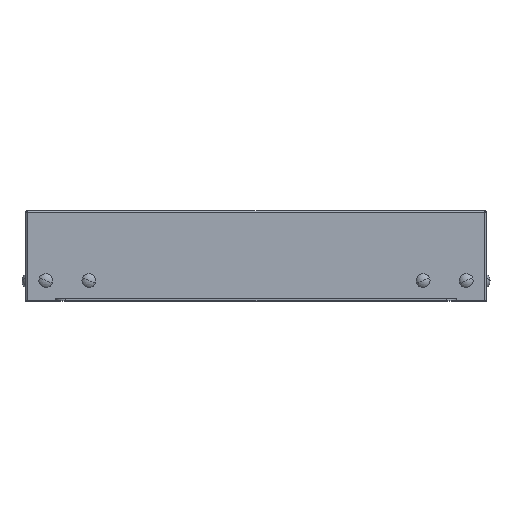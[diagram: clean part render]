
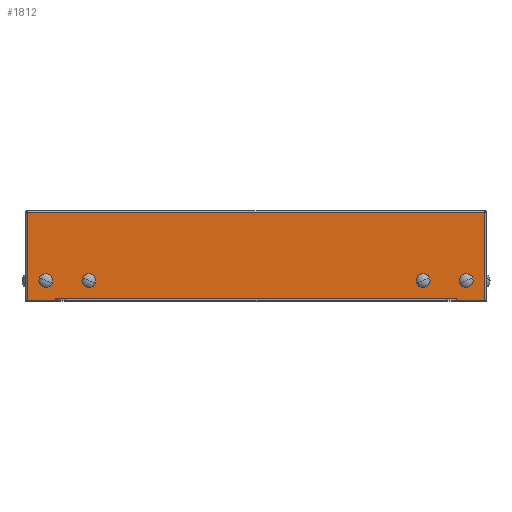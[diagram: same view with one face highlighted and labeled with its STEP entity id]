
A CAD part, top view. The second image highlights one B-rep face of the part: STEP entity #1812.
In plain terms, the highlighted planar face has unit normal (0, 0, 1).
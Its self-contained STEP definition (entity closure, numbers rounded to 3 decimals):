
#12 = DIRECTION ( 'NONE',  ( 1., 0., 0. ) ) ;
#17 = CARTESIAN_POINT ( 'NONE',  ( 100., 0., 115. ) ) ;
#28 = CIRCLE ( 'NONE', #2562, 3.45 ) ;
#57 = CARTESIAN_POINT ( 'NONE',  ( -106.317, 6.811, 115. ) ) ;
#106 = EDGE_CURVE ( 'NONE', #4280, #912, #3704, .T. ) ;
#136 = ORIENTED_EDGE ( 'NONE', *, *, #1688, .T. ) ;
#160 = AXIS2_PLACEMENT_3D ( 'NONE', #3010, #2398, #292 ) ;
#190 = ORIENTED_EDGE ( 'NONE', *, *, #1694, .F. ) ;
#222 = LINE ( 'NONE', #3990, #1916 ) ;
#292 = DIRECTION ( 'NONE',  ( 1., 0., 0. ) ) ;
#299 = DIRECTION ( 'NONE',  ( 0., 0., -1. ) ) ;
#314 = CARTESIAN_POINT ( 'NONE',  ( 114., 370.269, 115. ) ) ;
#320 = ORIENTED_EDGE ( 'NONE', *, *, #1402, .F. ) ;
#321 = AXIS2_PLACEMENT_3D ( 'NONE', #3482, #1811, #2160 ) ;
#328 = CARTESIAN_POINT ( 'NONE',  ( 105., 10., 115. ) ) ;
#363 = EDGE_CURVE ( 'NONE', #2857, #509, #1292, .T. ) ;
#393 = CIRCLE ( 'NONE', #3152, 3.45 ) ;
#474 = EDGE_CURVE ( 'NONE', #912, #4280, #3816, .T. ) ;
#509 = VERTEX_POINT ( 'NONE', #1705 ) ;
#604 = VERTEX_POINT ( 'NONE', #3496 ) ;
#636 = ORIENTED_EDGE ( 'NONE', *, *, #1311, .T. ) ;
#690 = CARTESIAN_POINT ( 'NONE',  ( 115., 0., 115. ) ) ;
#742 = CARTESIAN_POINT ( 'NONE',  ( -82.183, 13.189, 115. ) ) ;
#757 = CARTESIAN_POINT ( 'NONE',  ( 84.817, 6.811, 115. ) ) ;
#775 = PLANE ( 'NONE',  #321 ) ;
#806 = CARTESIAN_POINT ( 'NONE',  ( 82.183, 13.189, 115. ) ) ;
#852 = CARTESIAN_POINT ( 'NONE',  ( 83.5, 10., 115. ) ) ;
#912 = VERTEX_POINT ( 'NONE', #57 ) ;
#918 = CARTESIAN_POINT ( 'NONE',  ( -84.817, 6.811, 115. ) ) ;
#937 = CARTESIAN_POINT ( 'NONE',  ( 114., 44., 115. ) ) ;
#969 = ORIENTED_EDGE ( 'NONE', *, *, #2744, .F. ) ;
#985 = EDGE_CURVE ( 'NONE', #2897, #2715, #1524, .T. ) ;
#1019 = AXIS2_PLACEMENT_3D ( 'NONE', #1867, #2389, #2348 ) ;
#1027 = DIRECTION ( 'NONE',  ( 1., 0., 0. ) ) ;
#1114 = AXIS2_PLACEMENT_3D ( 'NONE', #328, #4081, #12 ) ;
#1184 = DIRECTION ( 'NONE',  ( 0., 1., 0. ) ) ;
#1212 = DIRECTION ( 'NONE',  ( 0., 0., 1. ) ) ;
#1220 = CARTESIAN_POINT ( 'NONE',  ( 100., 0., 115. ) ) ;
#1292 = LINE ( 'NONE', #2970, #1842 ) ;
#1308 = LINE ( 'NONE', #314, #2846 ) ;
#1311 = EDGE_CURVE ( 'NONE', #2251, #2857, #1308, .T. ) ;
#1395 = DIRECTION ( 'NONE',  ( 0., 1., 0. ) ) ;
#1402 = EDGE_CURVE ( 'NONE', #1451, #2031, #28, .T. ) ;
#1429 = DIRECTION ( 'NONE',  ( -1., 0., 0. ) ) ;
#1451 = VERTEX_POINT ( 'NONE', #742 ) ;
#1500 = CARTESIAN_POINT ( 'NONE',  ( -100., 0., 115. ) ) ;
#1519 = AXIS2_PLACEMENT_3D ( 'NONE', #2052, #3461, #4151 ) ;
#1524 = LINE ( 'NONE', #1500, #3739 ) ;
#1608 = EDGE_CURVE ( 'NONE', #2715, #4277, #222, .T. ) ;
#1688 = EDGE_CURVE ( 'NONE', #4427, #2247, #2354, .T. ) ;
#1694 = EDGE_CURVE ( 'NONE', #2995, #2712, #393, .T. ) ;
#1705 = CARTESIAN_POINT ( 'NONE',  ( -114., 44., 115. ) ) ;
#1738 = LINE ( 'NONE', #17, #2379 ) ;
#1759 = CARTESIAN_POINT ( 'NONE',  ( 114., 0., 115. ) ) ;
#1791 = FACE_BOUND ( 'NONE', #2497, .T. ) ;
#1811 = DIRECTION ( 'NONE',  ( 0., 0., 1. ) ) ;
#1812 = ADVANCED_FACE ( 'NONE', ( #2094, #1791, #2455, #3888, #3179 ), #775, .T. ) ;
#1815 = EDGE_LOOP ( 'NONE', ( #136, #3345 ) ) ;
#1842 = VECTOR ( 'NONE', #3652, 1000. ) ;
#1867 = CARTESIAN_POINT ( 'NONE',  ( -83.5, 10., 115. ) ) ;
#1908 = EDGE_LOOP ( 'NONE', ( #190, #969 ) ) ;
#1916 = VECTOR ( 'NONE', #4034, 1000. ) ;
#1935 = EDGE_CURVE ( 'NONE', #509, #604, #2953, .T. ) ;
#1960 = ORIENTED_EDGE ( 'NONE', *, *, #474, .T. ) ;
#2031 = VERTEX_POINT ( 'NONE', #918 ) ;
#2045 = ORIENTED_EDGE ( 'NONE', *, *, #4157, .F. ) ;
#2052 = CARTESIAN_POINT ( 'NONE',  ( -105., 10., 115. ) ) ;
#2094 = FACE_BOUND ( 'NONE', #3125, .T. ) ;
#2160 = DIRECTION ( 'NONE',  ( 1., 0., 0. ) ) ;
#2189 = DIRECTION ( 'NONE',  ( 0.382, -0.924, 0. ) ) ;
#2247 = VERTEX_POINT ( 'NONE', #3848 ) ;
#2251 = VERTEX_POINT ( 'NONE', #1759 ) ;
#2272 = ORIENTED_EDGE ( 'NONE', *, *, #363, .T. ) ;
#2287 = VECTOR ( 'NONE', #3194, 1000. ) ;
#2292 = ORIENTED_EDGE ( 'NONE', *, *, #3832, .F. ) ;
#2318 = CARTESIAN_POINT ( 'NONE',  ( -100., 0., 115. ) ) ;
#2348 = DIRECTION ( 'NONE',  ( 0.382, 0.924, 0. ) ) ;
#2354 = CIRCLE ( 'NONE', #1114, 3.45 ) ;
#2379 = VECTOR ( 'NONE', #1395, 1000. ) ;
#2389 = DIRECTION ( 'NONE',  ( 0., 0., 1. ) ) ;
#2398 = DIRECTION ( 'NONE',  ( 0., 0., -1. ) ) ;
#2429 = CARTESIAN_POINT ( 'NONE',  ( 115., 0., 115. ) ) ;
#2440 = EDGE_LOOP ( 'NONE', ( #2668, #3795, #2292, #4179, #636, #2272, #3480, #2045 ) ) ;
#2455 = FACE_BOUND ( 'NONE', #1815, .T. ) ;
#2497 = EDGE_LOOP ( 'NONE', ( #3367, #1960 ) ) ;
#2505 = AXIS2_PLACEMENT_3D ( 'NONE', #3775, #299, #1027 ) ;
#2556 = AXIS2_PLACEMENT_3D ( 'NONE', #852, #1212, #2189 ) ;
#2562 = AXIS2_PLACEMENT_3D ( 'NONE', #3745, #3770, #4491 ) ;
#2582 = EDGE_CURVE ( 'NONE', #2247, #4427, #2707, .T. ) ;
#2619 = CARTESIAN_POINT ( 'NONE',  ( -114., 370.269, 115. ) ) ;
#2668 = ORIENTED_EDGE ( 'NONE', *, *, #985, .T. ) ;
#2707 = CIRCLE ( 'NONE', #160, 3.45 ) ;
#2712 = VERTEX_POINT ( 'NONE', #806 ) ;
#2715 = VERTEX_POINT ( 'NONE', #3972 ) ;
#2744 = EDGE_CURVE ( 'NONE', #2712, #2995, #4009, .T. ) ;
#2776 = DIRECTION ( 'NONE',  ( 0., 0., 1. ) ) ;
#2846 = VECTOR ( 'NONE', #4510, 1000. ) ;
#2857 = VERTEX_POINT ( 'NONE', #937 ) ;
#2897 = VERTEX_POINT ( 'NONE', #2318 ) ;
#2938 = VECTOR ( 'NONE', #1429, 1000. ) ;
#2953 = LINE ( 'NONE', #2619, #3580 ) ;
#2963 = CIRCLE ( 'NONE', #1019, 3.45 ) ;
#2970 = CARTESIAN_POINT ( 'NONE',  ( -115., 44., 115. ) ) ;
#2995 = VERTEX_POINT ( 'NONE', #757 ) ;
#3010 = CARTESIAN_POINT ( 'NONE',  ( 105., 10., 115. ) ) ;
#3102 = EDGE_CURVE ( 'NONE', #2031, #1451, #2963, .T. ) ;
#3104 = DIRECTION ( 'NONE',  ( 0.382, -0.924, 0. ) ) ;
#3125 = EDGE_LOOP ( 'NONE', ( #320, #3977 ) ) ;
#3152 = AXIS2_PLACEMENT_3D ( 'NONE', #3803, #2776, #3104 ) ;
#3179 = FACE_OUTER_BOUND ( 'NONE', #2440, .T. ) ;
#3194 = DIRECTION ( 'NONE',  ( -1., 0., 0. ) ) ;
#3345 = ORIENTED_EDGE ( 'NONE', *, *, #2582, .T. ) ;
#3367 = ORIENTED_EDGE ( 'NONE', *, *, #106, .T. ) ;
#3461 = DIRECTION ( 'NONE',  ( 0., 0., -1. ) ) ;
#3478 = LINE ( 'NONE', #2429, #2938 ) ;
#3480 = ORIENTED_EDGE ( 'NONE', *, *, #1935, .T. ) ;
#3482 = CARTESIAN_POINT ( 'NONE',  ( 115., 370.269, 115. ) ) ;
#3496 = CARTESIAN_POINT ( 'NONE',  ( -114., 0., 115. ) ) ;
#3580 = VECTOR ( 'NONE', #4358, 1000. ) ;
#3652 = DIRECTION ( 'NONE',  ( -1., 0., 0. ) ) ;
#3704 = CIRCLE ( 'NONE', #1519, 3.45 ) ;
#3739 = VECTOR ( 'NONE', #1184, 1000. ) ;
#3745 = CARTESIAN_POINT ( 'NONE',  ( -83.5, 10., 115. ) ) ;
#3770 = DIRECTION ( 'NONE',  ( 0., 0., 1. ) ) ;
#3773 = CARTESIAN_POINT ( 'NONE',  ( 106.317, 6.811, 115. ) ) ;
#3775 = CARTESIAN_POINT ( 'NONE',  ( -105., 10., 115. ) ) ;
#3795 = ORIENTED_EDGE ( 'NONE', *, *, #1608, .T. ) ;
#3803 = CARTESIAN_POINT ( 'NONE',  ( 83.5, 10., 115. ) ) ;
#3816 = CIRCLE ( 'NONE', #2505, 3.45 ) ;
#3818 = LINE ( 'NONE', #690, #2287 ) ;
#3832 = EDGE_CURVE ( 'NONE', #4330, #4277, #1738, .T. ) ;
#3848 = CARTESIAN_POINT ( 'NONE',  ( 103.683, 13.189, 115. ) ) ;
#3888 = FACE_BOUND ( 'NONE', #1908, .T. ) ;
#3972 = CARTESIAN_POINT ( 'NONE',  ( -100., 1., 115. ) ) ;
#3977 = ORIENTED_EDGE ( 'NONE', *, *, #3102, .F. ) ;
#3990 = CARTESIAN_POINT ( 'NONE',  ( -114., 1., 115. ) ) ;
#3995 = CARTESIAN_POINT ( 'NONE',  ( 100., 1., 115. ) ) ;
#4009 = CIRCLE ( 'NONE', #2556, 3.45 ) ;
#4034 = DIRECTION ( 'NONE',  ( 1., 0., 0. ) ) ;
#4081 = DIRECTION ( 'NONE',  ( 0., 0., -1. ) ) ;
#4151 = DIRECTION ( 'NONE',  ( 1., 0., 0. ) ) ;
#4157 = EDGE_CURVE ( 'NONE', #2897, #604, #3818, .T. ) ;
#4179 = ORIENTED_EDGE ( 'NONE', *, *, #4180, .F. ) ;
#4180 = EDGE_CURVE ( 'NONE', #2251, #4330, #3478, .T. ) ;
#4274 = CARTESIAN_POINT ( 'NONE',  ( -103.683, 13.189, 115. ) ) ;
#4277 = VERTEX_POINT ( 'NONE', #3995 ) ;
#4280 = VERTEX_POINT ( 'NONE', #4274 ) ;
#4330 = VERTEX_POINT ( 'NONE', #1220 ) ;
#4358 = DIRECTION ( 'NONE',  ( 0., -1., 0. ) ) ;
#4427 = VERTEX_POINT ( 'NONE', #3773 ) ;
#4491 = DIRECTION ( 'NONE',  ( 0.382, 0.924, 0. ) ) ;
#4510 = DIRECTION ( 'NONE',  ( 0., 1., 0. ) ) ;
